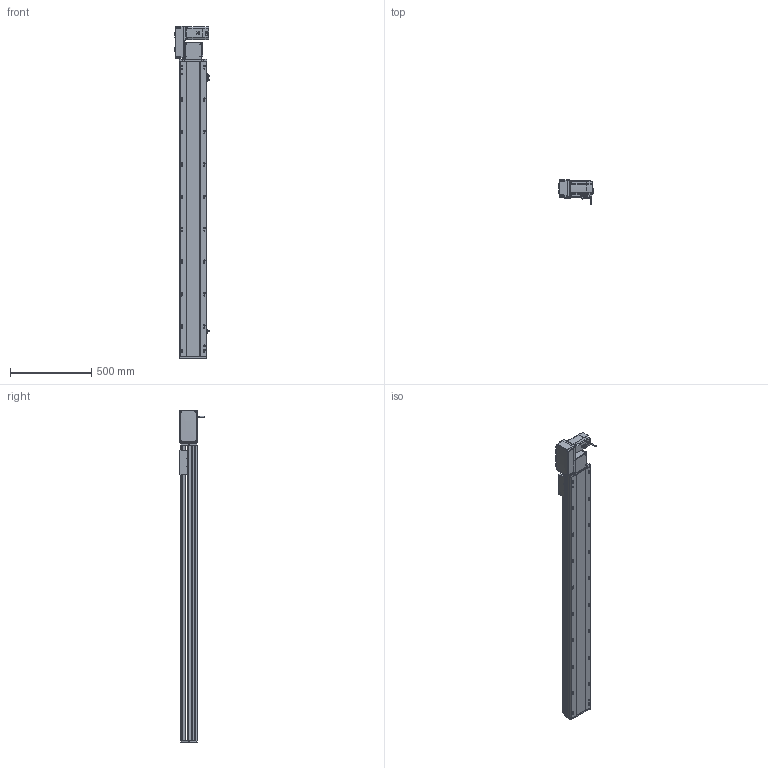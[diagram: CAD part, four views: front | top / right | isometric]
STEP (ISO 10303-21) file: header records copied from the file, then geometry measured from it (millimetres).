
FILE_DESCRIPTION (( 'STEP AP214' ), '1' );
FILE_NAME ('RTB17S-XX-1550-L-M75-C4.STEP', '2025-12-12T00:16:15', ( '' ), ( '' ), 'SwSTEP 2.0', 'SolidWorks 2018', '' );
FILE_SCHEMA (( 'AUTOMOTIVE_DESIGN' ));
Length unit declared in the file: millimetre
Products named in the file (15): RMP17S-L-014-T20-P75--々湍釱^RTB17S-L-々湍釱蚾饜-750W_RTB17S-XX-XX-L-M75-C4; RTB17S-賑釱^RTB17S-XX-XX-L-M75-C4; RTH13-BL-012覜茼え俋离^RTB17S-賑釱_RTB17S-XX-XX-L-M75-C4; RTB22S-GY-018P^RTB17S-L-々湍釱蚾饜-750W_RTB17S-XX-XX-L-M75-C4; RTB17S-L-々湍釱蚾饜-750W^RTB17S-XX-XX-L-M75-C4; RTB17S-L-001-耜醱啣^RTB17S-XX-XX-L-M75-C4; RTB22S-GY-008-M75--萇儂啣^RTB17S-L-々湍釱蚾饜-750W_RTB17S-XX-XX-L-M75-C4; RTB22S-GY-005P^RTB17S-L-々湍釱蚾饜-750W_RTB17S-XX-XX-L-M75-C4; RTB17S-XX-1550-L-M75-C4; RTB22S-GY-017P^RTB17S-L-々湍釱蚾饜-750W_RTB17S-XX-XX-L-M75-C4; RTB17-R-011菁釱^RTB17S-XX-XX-L-M75-C4; 750W萇儂^RTB17S-XX-XX-L-M75-C4; EE672^RTB17S-XX-XX-L-M75-C4; RTB17S-L-007奻裔^RTB17S-XX-XX-L-M75-C4; RTB17S-L-004-賑釱^RTB17S-賑釱_RTB17S-XX-XX-L-M75-C4
Assembly tree (17 placements, depth 3):
  RTB17S-XX-1550-L-M75-C4
    RTB17-R-011菁釱^RTB17S-XX-XX-L-M75-C4
    EE672^RTB17S-XX-XX-L-M75-C4  x3
    RTB17S-L-001-耜醱啣^RTB17S-XX-XX-L-M75-C4
    RTB17S-賑釱^RTB17S-XX-XX-L-M75-C4
      RTB17S-L-004-賑釱^RTB17S-賑釱_RTB17S-XX-XX-L-M75-C4
      RTH13-BL-012覜茼え俋离^RTB17S-賑釱_RTB17S-XX-XX-L-M75-C4
    RTB17S-L-007奻裔^RTB17S-XX-XX-L-M75-C4
    750W萇儂^RTB17S-XX-XX-L-M75-C4
    RTB17S-L-々湍釱蚾饜-750W^RTB17S-XX-XX-L-M75-C4
      RMP17S-L-014-T20-P75--々湍釱^RTB17S-L-々湍釱蚾饜-750W_RTB17S-XX-XX-L-M75-C4
      RTB22S-GY-005P^RTB17S-L-々湍釱蚾饜-750W_RTB17S-XX-XX-L-M75-C4
      RTB22S-GY-017P^RTB17S-L-々湍釱蚾饜-750W_RTB17S-XX-XX-L-M75-C4  x2
      RTB22S-GY-008-M75--萇儂啣^RTB17S-L-々湍釱蚾饜-750W_RTB17S-XX-XX-L-M75-C4
      RTB22S-GY-018P^RTB17S-L-々湍釱蚾饜-750W_RTB17S-XX-XX-L-M75-C4
Bounding box: 210.4 x 152.7 x 2049 mm (x, y, z)
Volume: 15639276.4 mm3; surface area: 2746500.1 mm2
Topology: 17 solids, 17 shells, 2137 faces, 5944 edges, 3842 vertices
Faces by surface type: plane 976, cylinder 745, bspline 294, cone 110, sphere 8, torus 4
Entity records: 60406 total; most frequent: CARTESIAN_POINT 17808, ORIENTED_EDGE 8732, DIRECTION 8132, EDGE_CURVE 4366, AXIS2_PLACEMENT_3D 2862, VERTEX_POINT 2846, LINE 2408, VECTOR 2408
